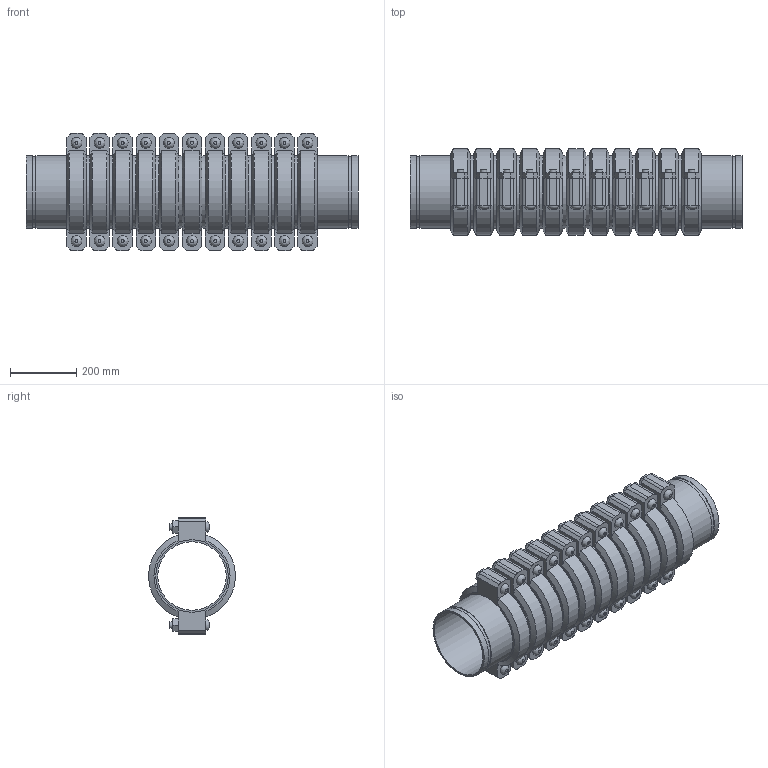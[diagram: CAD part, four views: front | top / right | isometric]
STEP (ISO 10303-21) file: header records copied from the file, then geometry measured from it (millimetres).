
FILE_DESCRIPTION(/* description */ ('VIC SS EXPANSION JOINT 11 COUPLINGS COMPRESSED STYLE 155P (OGS) (POTABLE WATER) ','CAx-IF Rec.Pracs.---Representation and Presentation of Product Manufacturing Information (PMI)---4.0---2014-10-13'),/* implementation_level */ '2;1');
FILE_NAME(/* name */ 'C:\Users\kkamble\AppData\Roaming\Autodesk\ApplicationPlugins\Victaulic.Temp\A148\Victaulic_SS_Expansion Joint_Compressed_11 Couplings_Style 155P (OGS)-Potable Water_11 Coup_Comp_8 (200).stp',/* time_stamp */ '2021-07-16T17:07:05+06:00',/* author */ ('kkamble'),/* organization */ ('Victaulic'),/* preprocessor_version */ 'ST-DEVELOPER v17.2',/* originating_system */ 'Autodesk Inventor 2019',/* authorisation */ '');
FILE_SCHEMA (('AP242_MANAGED_MODEL_BASED_3D_ENGINEERING_MIM_LF { 1 0 10303 442 1 1 4 }'));
Length unit declared in the file: inch
Products named in the file (4): 155P-08.0; Nipple-08.0; Nipple-08.0_1; 075-08.0
Assembly tree (23 placements, depth 2):
  155P-08.0
    Nipple-08.0  x2
    Nipple-08.0_1  x10
    075-08.0  x11
Bounding box: 1003.3 x 261.72 x 354.84 mm (x, y, z)
Volume: 18833689.5 mm3; surface area: 3351036 mm2
Topology: 23 solids, 45 shells, 727 faces, 1757 edges, 1234 vertices
Faces by surface type: plane 446, cylinder 215, cone 44, bspline 22
Full cylindrical faces by diameter (mm): 19.05 x44, 21.209 x22, 206.985 x12, 214.401 x24, 219.075 x47
Entity records: 2785 total; most frequent: CARTESIAN_POINT 493, DIRECTION 471, ORIENTED_EDGE 374, AXIS2_PLACEMENT_3D 190, EDGE_CURVE 187, VERTEX_POINT 134, EDGE_LOOP 101, LINE 91
